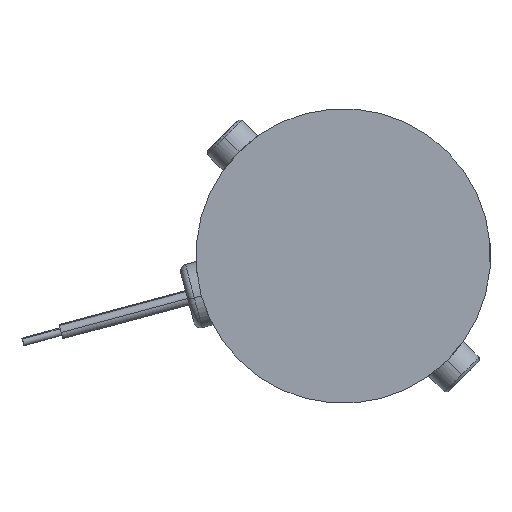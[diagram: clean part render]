
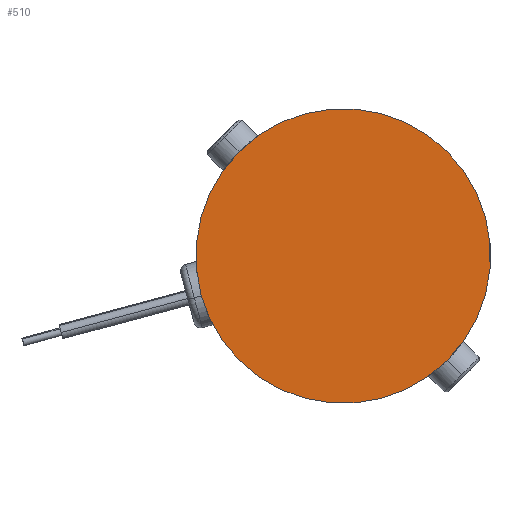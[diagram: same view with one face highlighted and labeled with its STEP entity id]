
A CAD part, left-side view. The second image highlights one B-rep face of the part: STEP entity #510.
In plain terms, the highlighted planar face has unit normal (-1, 0, 0).
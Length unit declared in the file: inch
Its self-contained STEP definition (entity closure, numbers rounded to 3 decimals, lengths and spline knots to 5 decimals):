
#298 = AXIS2_PLACEMENT_3D ( 'NONE', #8060, #3848, #5242 ) ;
#380 = VERTEX_POINT ( 'NONE', #2306 ) ;
#510 = ADVANCED_FACE ( 'NONE', ( #7925 ), #8903, .F. ) ;
#541 = CIRCLE ( 'NONE', #298, 1.125 ) ;
#926 = DIRECTION ( 'NONE',  ( 0., -0.707, -0.707 ) ) ;
#1910 = AXIS2_PLACEMENT_3D ( 'NONE', #8173, #5356, #2463 ) ;
#1999 = ORIENTED_EDGE ( 'NONE', *, *, #6182, .F. ) ;
#2249 = EDGE_CURVE ( 'NONE', #2329, #380, #541, .T. ) ;
#2306 = CARTESIAN_POINT ( 'NONE',  ( -4.65487, 4.52397, -2.94308 ) ) ;
#2329 = VERTEX_POINT ( 'NONE', #3647 ) ;
#2463 = DIRECTION ( 'NONE',  ( 0., -0.707, -0.707 ) ) ;
#3647 = CARTESIAN_POINT ( 'NONE',  ( -4.65487, 2.93298, -4.53407 ) ) ;
#3848 = DIRECTION ( 'NONE',  ( 1., 0., 0. ) ) ;
#4675 = EDGE_LOOP ( 'NONE', ( #1999, #7139 ) ) ;
#5242 = DIRECTION ( 'NONE',  ( 0., -0.707, -0.707 ) ) ;
#5356 = DIRECTION ( 'NONE',  ( 1., 0., 0. ) ) ;
#6182 = EDGE_CURVE ( 'NONE', #380, #2329, #7978, .T. ) ;
#7139 = ORIENTED_EDGE ( 'NONE', *, *, #2249, .F. ) ;
#7326 = CARTESIAN_POINT ( 'NONE',  ( -4.65487, 3.72848, -3.73857 ) ) ;
#7925 = FACE_OUTER_BOUND ( 'NONE', #4675, .T. ) ;
#7978 = CIRCLE ( 'NONE', #8277, 1.125 ) ;
#8060 = CARTESIAN_POINT ( 'NONE',  ( -4.65487, 3.72848, -3.73857 ) ) ;
#8173 = CARTESIAN_POINT ( 'NONE',  ( -4.65487, 3.72848, -3.73857 ) ) ;
#8277 = AXIS2_PLACEMENT_3D ( 'NONE', #7326, #8777, #926 ) ;
#8777 = DIRECTION ( 'NONE',  ( 1., 0., 0. ) ) ;
#8903 = PLANE ( 'NONE',  #1910 ) ;
